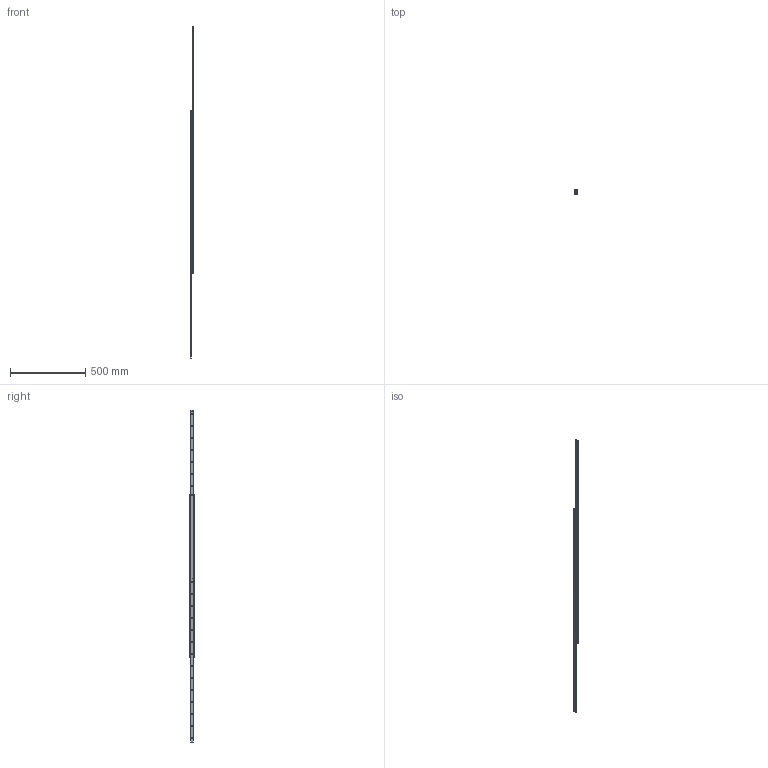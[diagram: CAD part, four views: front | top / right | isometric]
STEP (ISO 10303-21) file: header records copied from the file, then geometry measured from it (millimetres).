
FILE_DESCRIPTION( ( 'STEP AP214' ), '1' );
FILE_NAME( 'p:/temp/worker_93/temp/exporttempdir_5908_1379_pfcNg/format_0/DEF28-10901118.stp', '2020-03-20T19:48:12', ( 'License CC BY-ND 4.0' ), ( 'CADENAS' ), ' ', 'PARTsolutions', ' ' );
FILE_SCHEMA( ( 'AUTOMOTIVE_DESIGN { 1 0 10303 214 1 1 1 1 }' ) );
Length unit declared in the file: millimetre
Products named in the file (4): DEF28-10901118; _28211090111812-gf; _2821109011181-ei; _28211090111811-gf
Assembly tree (4 placements, depth 2):
  DEF28-10901118
    _28211090111812-gf
    _2821109011181-ei  x2
    _28211090111811-gf
Bounding box: 26 x 28 x 2208 mm (x, y, z)
Volume: 528537.6 mm3; surface area: 314838 mm2
Topology: 4 solids, 4 shells, 234 faces, 584 edges, 370 vertices
Faces by surface type: plane 102, cylinder 72, cone 60
Full cylindrical faces by diameter (mm): 4.134 x28, 5 x2
Entity records: 6760 total; most frequent: DIRECTION 936, CARTESIAN_POINT 854, ORIENTED_EDGE 748, EDGE_CURVE 374, AXIS2_PLACEMENT_3D 370, EDGE_LOOP 338, VERTEX_POINT 288, FACE_OUTER_BOUND 216
